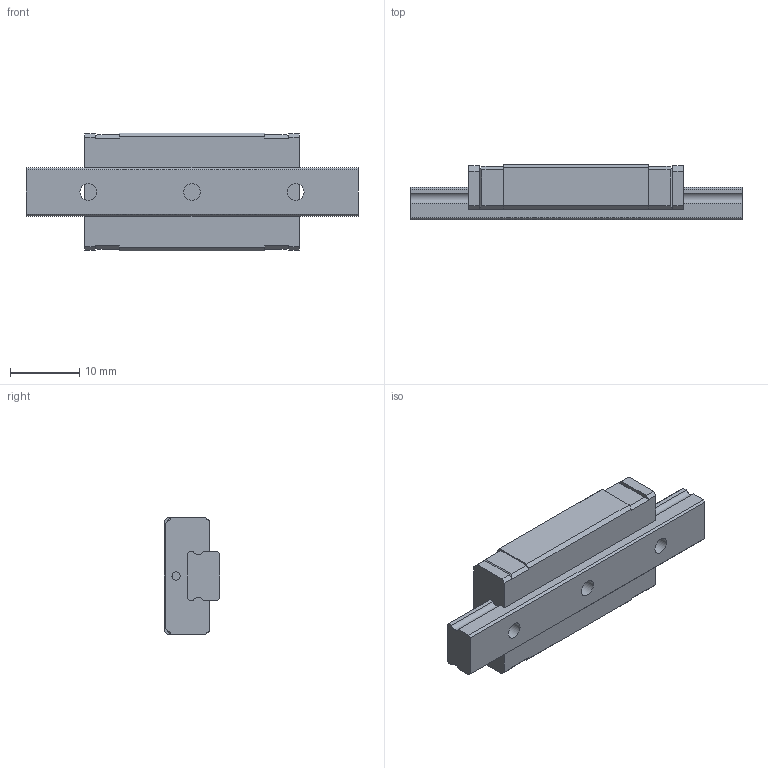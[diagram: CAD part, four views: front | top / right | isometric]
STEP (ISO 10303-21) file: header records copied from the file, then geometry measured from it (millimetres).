
FILE_DESCRIPTION(/* description */ ('STEP AP203'),/* implementation_level */ '2;1');
FILE_NAME(/* name */ 'RSX7NMUU-48LM_G9_0_Without grease nipple_8-5_0_0_0_1',/* time_stamp */ '2024-05-21T10:25:15+02:00',/* author */ ('License CC BY-ND 4.0'),/* organization */ ('CADENAS'),/* preprocessor_version */ 'ST-DEVELOPER v19.3',/* originating_system */ 'PARTsolutions',/* authorisation */ ' ');
FILE_SCHEMA (('CONFIG_CONTROL_DESIGN'));
Length unit declared in the file: millimetre
Products named in the file (3): RSX7NMUU-48LM_G9_0_Without grease nipple_8-5_0_0_0_1; RSX7M489 Track; RSX7NMUU1 Slider
Assembly tree (2 placements, depth 2):
  RSX7NMUU-48LM_G9_0_Without grease nipple_8-5_0_0_0_1
    RSX7M489 Track
    RSX7NMUU1 Slider
Bounding box: 48 x 8 x 17 mm (x, y, z)
Volume: 4040.2 mm3; surface area: 3221.6 mm2
Topology: 2 solids, 2 shells, 97 faces, 260 edges, 172 vertices
Faces by surface type: plane 73, cylinder 16, cone 8
Full cylindrical faces by diameter (mm): 1.2 x2, 1.567 x4, 2.4 x3, 4.2 x3
Entity records: 2929 total; most frequent: CARTESIAN_POINT 500, DIRECTION 468, ORIENTED_EDGE 464, EDGE_CURVE 232, LINE 196, VECTOR 196, VERTEX_POINT 168, AXIS2_PLACEMENT_3D 136
